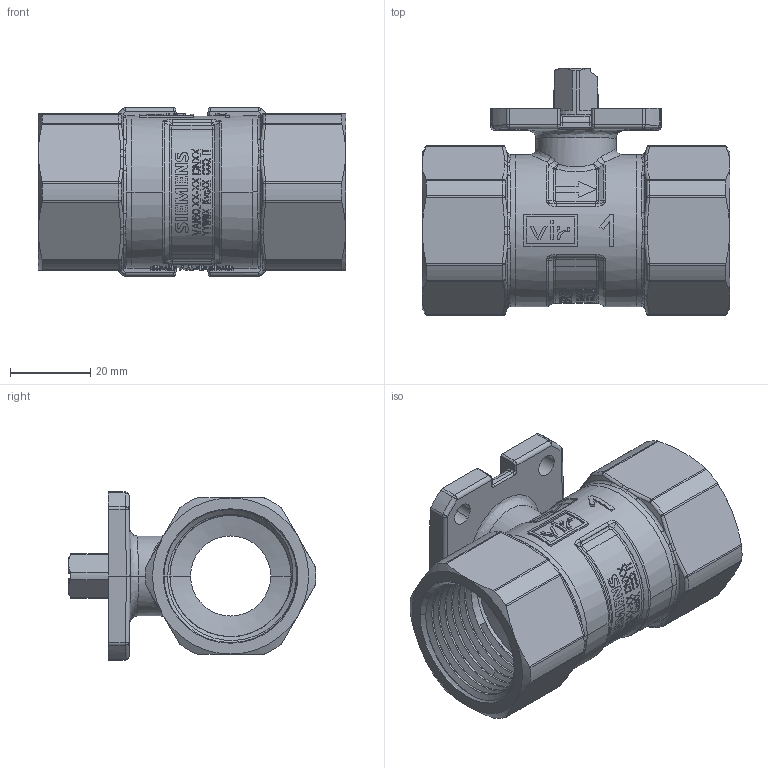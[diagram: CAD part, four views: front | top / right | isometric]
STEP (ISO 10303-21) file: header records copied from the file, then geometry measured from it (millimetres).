
FILE_DESCRIPTION((''),'2;1');
FILE_NAME('H980F0025_2119_ASM','2012-09-21T',('61graziano'),('Vir spa'),'PRO/ENGINEER BY PARAMETRIC TECHNOLOGY CORPORATION, 2010280','PRO/ENGINEER BY PARAMETRIC TECHNOLOGY CORPORATION, 2010280','');
FILE_SCHEMA(('CONFIG_CONTROL_DESIGN'));
Products named in the file (9): CC980S025_1170_SIEMENS; CXG980015_1330; CXP980015_92; CXGOR2031_692; CM98GF025_109; CXGOR2093_692; CXH30M020_155; CXK300020_103; H980F0025_2119_ASM
Assembly tree (12 placements, depth 2):
  H980F0025_2119_ASM
    CC980S025_1170_SIEMENS
    CXG980015_1330
    CXP980015_92
    CXGOR2031_692  x2
    CM98GF025_109  x2
    CXGOR2093_692  x2
    CXH30M020_155  x2
    CXK300020_103
Bounding box: 76.8 x 61.74 x 42 mm (x, y, z)
Volume: 57673.5 mm3; surface area: 48610 mm2
Topology: 12 solids, 19 shells, 2027 faces, 5408 edges, 3494 vertices
Faces by surface type: plane 1318, cylinder 319, bspline 204, cone 86, torus 86, sphere 14
Entity records: 67635 total; most frequent: CARTESIAN_POINT 25360, ORIENTED_EDGE 9864, DIRECTION 7157, EDGE_CURVE 4942, VERTEX_POINT 3211, AXIS2_PLACEMENT_3D 2656, B_SPLINE_CURVE_WITH_KNOTS 2161, EDGE_LOOP 1944
